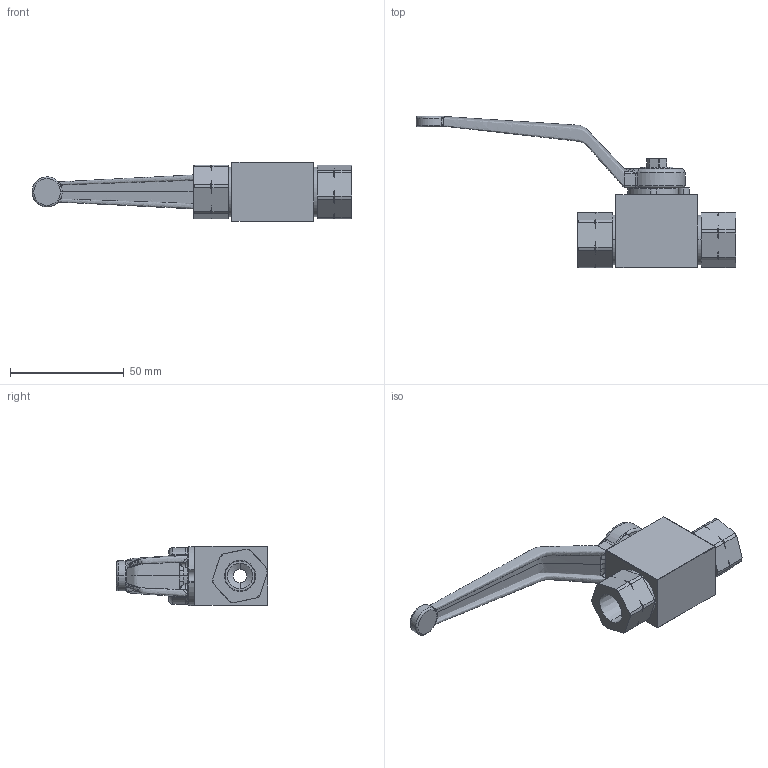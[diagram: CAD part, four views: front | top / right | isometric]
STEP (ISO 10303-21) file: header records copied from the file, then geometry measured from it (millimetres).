
FILE_DESCRIPTION (( 'STEP AP203' ), '1' );
FILE_NAME ('CFM-2-W-HANDLE.STEP', '2019-11-21T21:15:33', ( '' ), ( '' ), 'SwSTEP 2.0', 'SolidWorks 2017', '' );
FILE_SCHEMA (( 'CONFIG_CONTROL_DESIGN' ));
Length unit declared in the file: inch
Products named in the file (26): fkm-fitting-oring; m5-flange-cfm; cfm-2-stem; cfm_9mm_stem-stop-plate; cfm-9mm-handle; cfm-2-ball; fkm-stem-oring; cfm-2-seats; CFM-2-W-HANDLE; cfm-2-stem-thrust-washer; cfm-2-body; cfm-2-endport
Assembly tree (14 placements, depth 2):
  m5-flange-cfm
  cfm-2-stem
  cfm-9mm-handle
  cfm-2-ball
  fkm-stem-oring
Bounding box: 140.37 x 66.33 x 25.97 mm (x, y, z)
Volume: 47558.5 mm3; surface area: 28710.8 mm2
Topology: 14 solids, 14 shells, 754 faces, 1938 edges, 1195 vertices
Faces by surface type: cylinder 269, plane 225, torus 96, cone 80, bspline 66, sphere 18
Entity records: 37658 total; most frequent: CARTESIAN_POINT 19900, ORIENTED_EDGE 3384, DIRECTION 3067, EDGE_CURVE 1692, AXIS2_PLACEMENT_3D 1210, VERTEX_POINT 1053, EDGE_LOOP 699, ADVANCED_FACE 668
